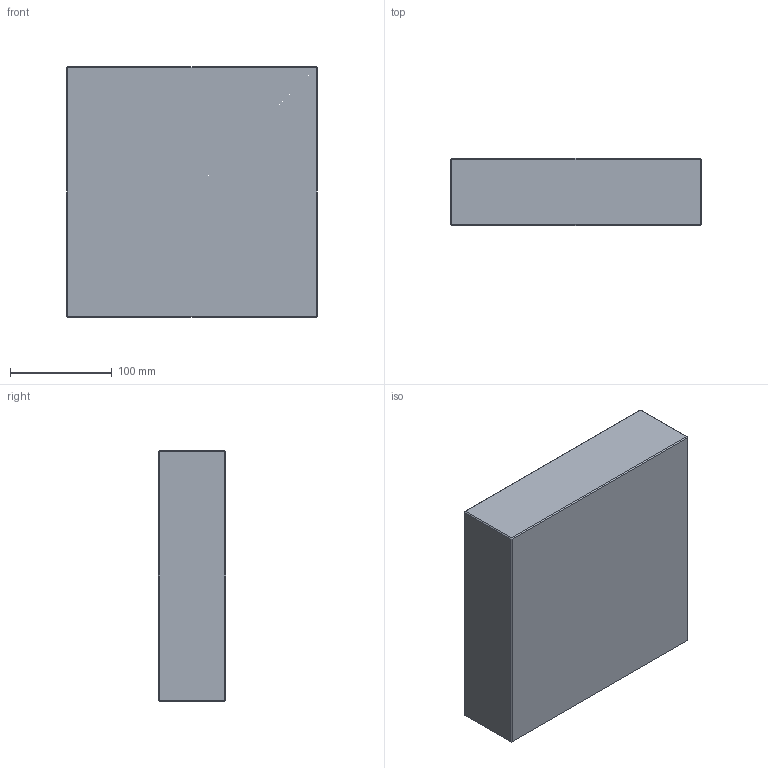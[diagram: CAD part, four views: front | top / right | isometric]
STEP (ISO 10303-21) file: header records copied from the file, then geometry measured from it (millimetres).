
FILE_DESCRIPTION (( 'STEP AP214' ), '1' );
FILE_NAME ('PC-P-246x246x66.STEP', '2020-04-01T08:26:51', ( 'August' ), ( '' ), 'SwSTEP 2.0', 'SolidWorks 2018', '' );
FILE_SCHEMA (( 'AUTOMOTIVE_DESIGN' ));
Length unit declared in the file: millimetre
Products named in the file (1): PC-P-246x246x66
Bounding box: 246 x 66 x 246 mm (x, y, z)
Volume: 3992945.3 mm3; surface area: 184665.5 mm2
Topology: 1 solids, 1 shells, 26 faces, 48 edges, 24 vertices
Faces by surface type: plane 26
Entity records: 634 total; most frequent: DIRECTION 102, CARTESIAN_POINT 99, ORIENTED_EDGE 96, LINE 48, VECTOR 48, EDGE_CURVE 48, AXIS2_PLACEMENT_3D 27, FACE_OUTER_BOUND 26
